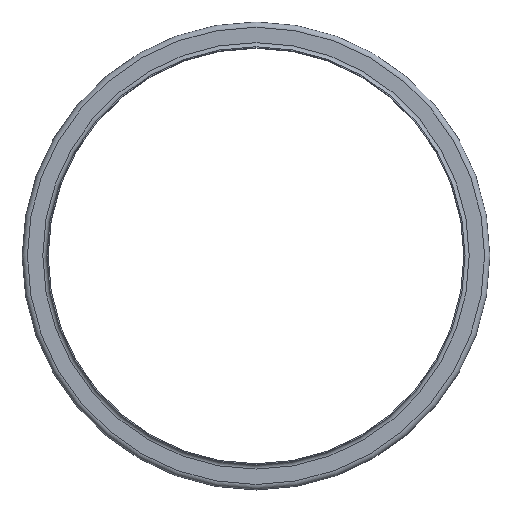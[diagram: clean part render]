
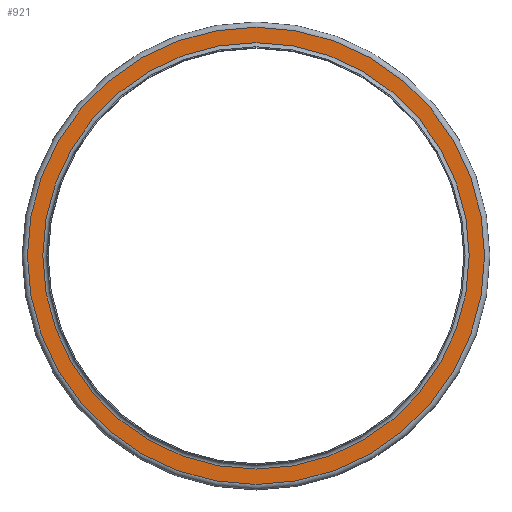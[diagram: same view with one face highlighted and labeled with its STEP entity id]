
A CAD part, top view. The second image highlights one B-rep face of the part: STEP entity #921.
In plain terms, the highlighted planar face has unit normal (0, 0, 1).
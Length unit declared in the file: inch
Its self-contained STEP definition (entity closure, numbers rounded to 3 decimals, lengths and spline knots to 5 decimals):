
#98=FACE_BOUND('',#272,.T.);
#165=FACE_OUTER_BOUND('',#271,.T.);
#271=EDGE_LOOP('',(#772));
#272=EDGE_LOOP('',(#773));
#385=CIRCLE('',#1110,11.28);
#386=CIRCLE('',#1112,12.095);
#466=VERTEX_POINT('',#1734);
#467=VERTEX_POINT('',#1738);
#571=EDGE_CURVE('',#466,#466,#385,.T.);
#572=EDGE_CURVE('',#467,#467,#386,.T.);
#772=ORIENTED_EDGE('',*,*,#572,.F.);
#773=ORIENTED_EDGE('',*,*,#571,.T.);
#854=PLANE('',#1111);
#921=ADVANCED_FACE('',(#165,#98),#854,.T.);
#1110=AXIS2_PLACEMENT_3D('',#1736,#1446,#1447);
#1111=AXIS2_PLACEMENT_3D('',#1737,#1448,#1449);
#1112=AXIS2_PLACEMENT_3D('',#1739,#1450,#1451);
#1446=DIRECTION('center_axis',(0.,0.,-1.));
#1447=DIRECTION('ref_axis',(1.,0.,0.));
#1448=DIRECTION('center_axis',(0.,0.,1.));
#1449=DIRECTION('ref_axis',(1.,0.,0.));
#1450=DIRECTION('center_axis',(0.,0.,-1.));
#1451=DIRECTION('ref_axis',(1.,0.,0.));
#1734=CARTESIAN_POINT('',(11.28,0.,-0.22));
#1736=CARTESIAN_POINT('Origin',(0.,0.,-0.22));
#1737=CARTESIAN_POINT('Origin',(0.,12.095,-0.22));
#1738=CARTESIAN_POINT('',(12.095,0.,-0.22));
#1739=CARTESIAN_POINT('Origin',(0.,0.,-0.22));
